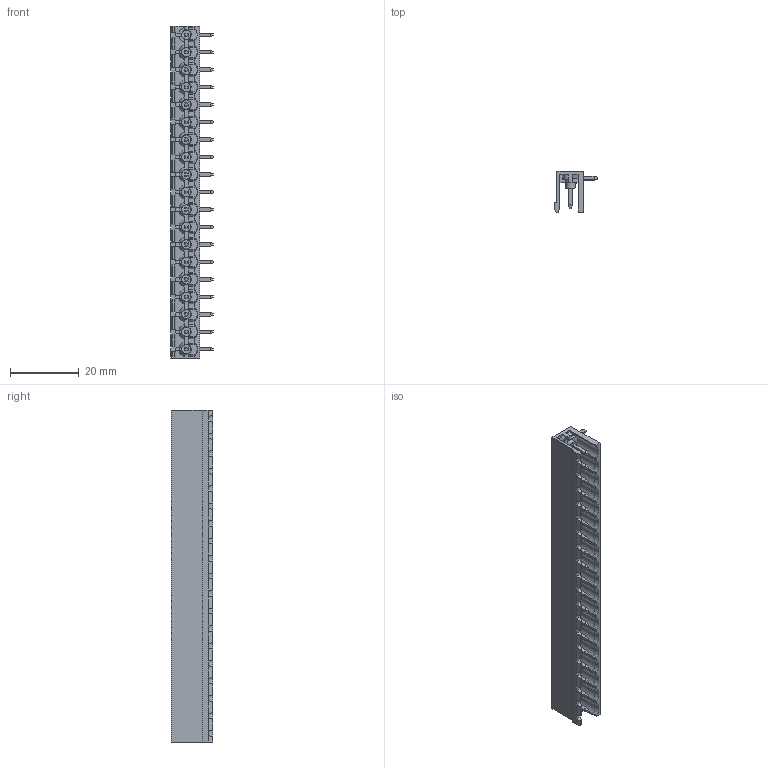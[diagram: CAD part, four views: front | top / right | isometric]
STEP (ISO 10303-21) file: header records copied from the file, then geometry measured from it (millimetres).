
FILE_DESCRIPTION (( 'STEP AP203' ), '1' );
FILE_NAME ('BR8MN1-19.STEP', '2020-03-18T03:14:11', ( '' ), ( '' ), 'SwSTEP 2.0', 'SolidWorks 2019', '' );
FILE_SCHEMA (( 'CONFIG_CONTROL_DESIGN' ));
Length unit declared in the file: millimetre
Products named in the file (1): BR8MN1-19
Bounding box: 12.5 x 12 x 96.52 mm (x, y, z)
Volume: 3684.3 mm3; surface area: 8201.9 mm2
Topology: 1 solids, 1 shells, 1596 faces, 4158 edges, 2564 vertices
Faces by surface type: plane 1370, cylinder 96, cone 92, sphere 38
Entity records: 47408 total; most frequent: CARTESIAN_POINT 9063, ORIENTED_EDGE 8164, DIRECTION 7473, EDGE_CURVE 4082, LINE 3481, VECTOR 3481, VERTEX_POINT 2526, AXIS2_PLACEMENT_3D 1996
